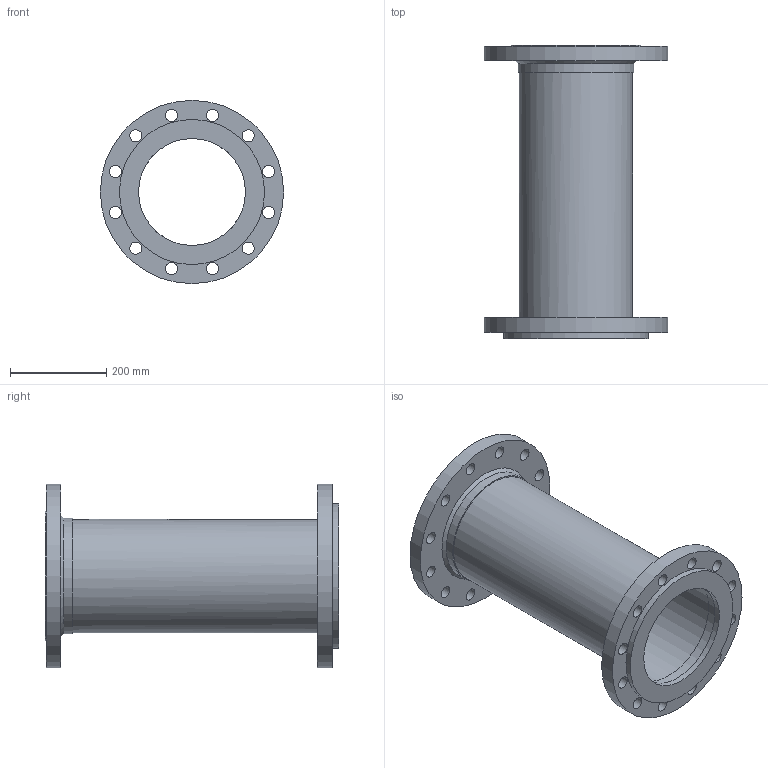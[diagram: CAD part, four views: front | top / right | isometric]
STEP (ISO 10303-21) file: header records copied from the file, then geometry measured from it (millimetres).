
FILE_DESCRIPTION(/* description */ (''),/* implementation_level */ '2;1');
FILE_NAME(/* name */ 'C:\001_Work\Designs\FFL2B-300\FFL2B-300-8x24.stp',/* time_stamp */ '2016-06-14T12:09:05-04:00',/* author */ ('rramoutar'),/* organization */ ('Mason Industries Inc.'),/* preprocessor_version */ 'ST-DEVELOPER v15.6',/* originating_system */ 'Autodesk Inventor 2015',/* authorisation */ '');
FILE_SCHEMA (('CONFIG_CONTROL_DESIGN'));
Length unit declared in the file: inch
Products named in the file (1): FFL2B-300-8x24
Bounding box: 381 x 609.6 x 381 mm (x, y, z)
Volume: 4783804.8 mm3; surface area: 1316515.7 mm2
Topology: 1 solids, 1 shells, 49 faces, 139 edges, 101 vertices
Faces by surface type: cylinder 35, plane 11, cone 3
Full cylindrical faces by diameter (mm): 25.4 x24, 222.25 x2, 234.95 x1, 235.966 x1, 240.728 x2, 244.475 x1, 269.875 x1, 301.625 x1, 381 x2
Entity records: 1412 total; most frequent: DIRECTION 246, CARTESIAN_POINT 196, EDGE_LOOP 146, ORIENTED_EDGE 146, AXIS2_PLACEMENT_3D 123, FACE_BOUND 97, CIRCLE 73, VERTEX_POINT 73
